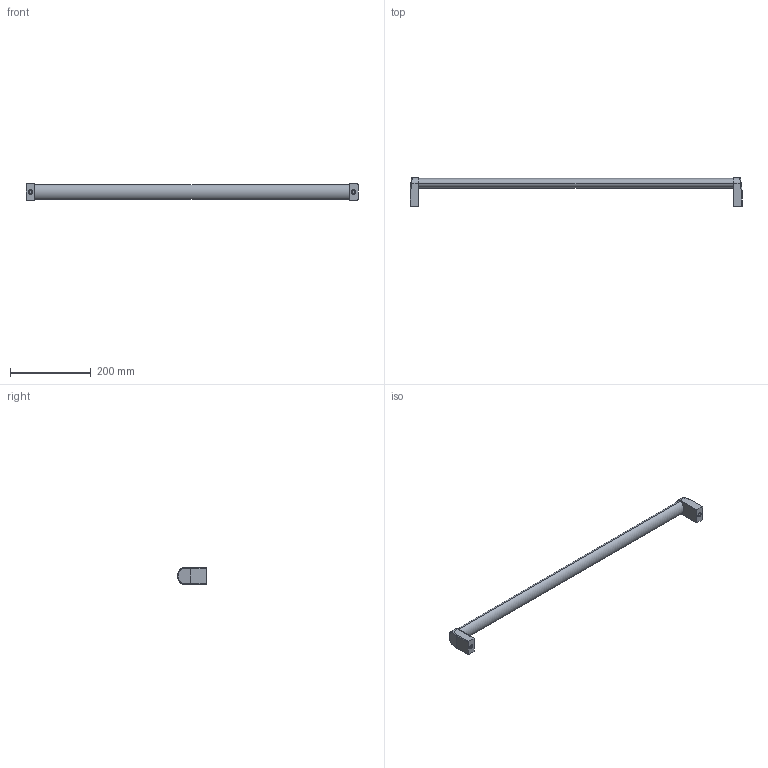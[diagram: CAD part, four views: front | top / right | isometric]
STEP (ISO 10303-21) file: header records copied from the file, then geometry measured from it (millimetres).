
FILE_DESCRIPTION (( 'STEP AP214' ), '1' );
FILE_NAME ('ETP-511B-80.STEP', '2020-03-24T09:17:55', ( '' ), ( '' ), 'SwSTEP 2.0', 'SolidWorks 2019', '' );
FILE_SCHEMA (( 'AUTOMOTIVE_DESIGN' ));
Length unit declared in the file: millimetre
Products named in the file (1): ETP-511B-80
Bounding box: 822 x 70.99 x 40 mm (x, y, z)
Volume: 641470.6 mm3; surface area: 92640.4 mm2
Topology: 1 solids, 1 shells, 44 faces, 96 edges, 60 vertices
Faces by surface type: cylinder 20, plane 16, bspline 8
Entity records: 2266 total; most frequent: CARTESIAN_POINT 1309, ORIENTED_EDGE 192, DIRECTION 186, EDGE_CURVE 96, AXIS2_PLACEMENT_3D 69, VERTEX_POINT 60, EDGE_LOOP 50, LINE 48
